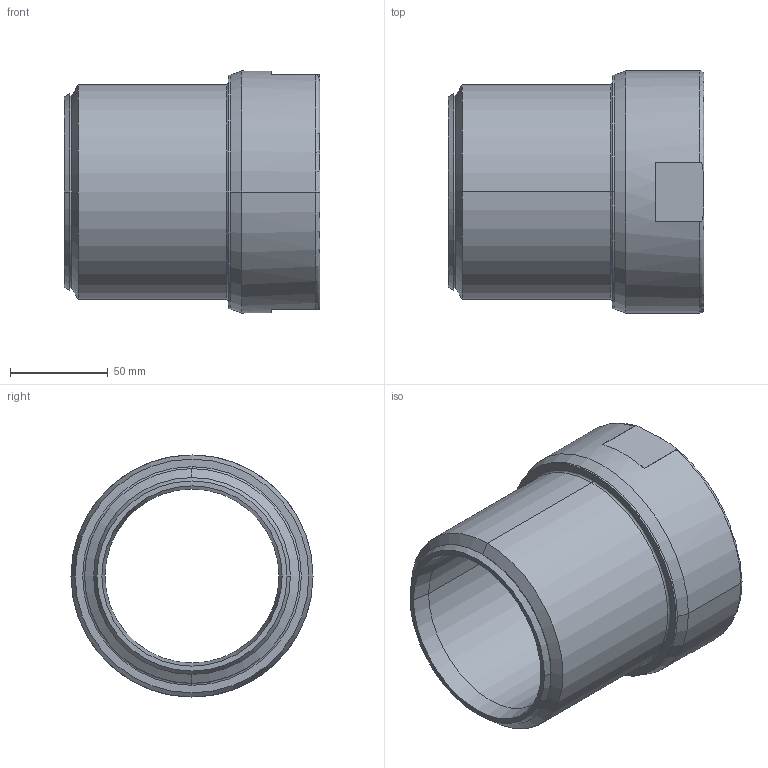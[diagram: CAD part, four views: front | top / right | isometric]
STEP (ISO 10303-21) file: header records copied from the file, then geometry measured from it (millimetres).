
FILE_DESCRIPTION (( 'STEP AP203' ), '1' );
FILE_NAME ('KP_C15-110F.step', '2011-08-08T12:03:52', ( '' ), ( '' ), 'SwSTEP 2.0', 'SolidWorks 2011', '' );
FILE_SCHEMA (( 'CONFIG_CONTROL_DESIGN' ));
Length unit declared in the file: millimetre
Products named in the file (1): KP_C15-110F
Bounding box: 131 x 124 x 124 mm (x, y, z)
Volume: 402899.5 mm3; surface area: 94390 mm2
Topology: 1 solids, 1 shells, 46 faces, 102 edges, 63 vertices
Faces by surface type: plane 15, cone 14, cylinder 12, torus 5
Entity records: 1417 total; most frequent: CARTESIAN_POINT 284, DIRECTION 242, ORIENTED_EDGE 204, EDGE_CURVE 102, AXIS2_PLACEMENT_3D 101, VERTEX_POINT 63, CIRCLE 54, EDGE_LOOP 53
